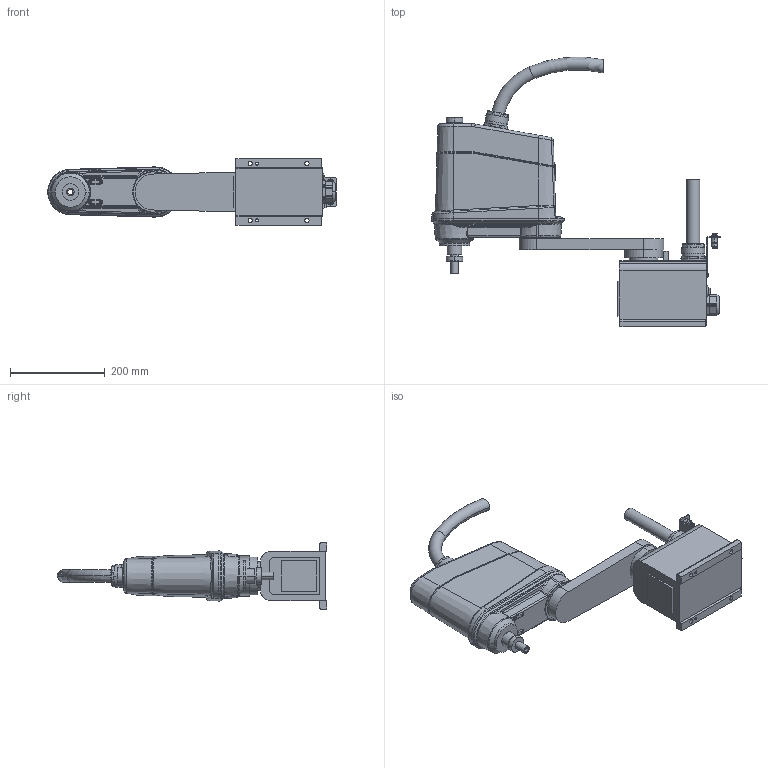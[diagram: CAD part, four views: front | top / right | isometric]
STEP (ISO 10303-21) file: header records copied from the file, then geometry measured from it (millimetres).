
FILE_DESCRIPTION((''),'2;1');
FILE_NAME('THL400_3D_ASM','2024-06-11T15:04:28',('15575'),(''),'CREO PARAMETRIC BY PTC INC, 2020454','CREO PARAMETRIC BY PTC INC, 2020454','');
FILE_SCHEMA(('AUTOMOTIVE_DESIGN { 1 0 10303 214 1 1 1 1 }'));
Length unit declared in the file: millimetre
Products named in the file (5): THL34_BASE; THL400_1ST_ARM; THL400_BALL_SCREW; THL400_2ND_ARM2; THL400_3D_ASM
Assembly tree (4 placements, depth 2):
  THL400_3D_ASM
    THL34_BASE
    THL400_1ST_ARM
    THL400_BALL_SCREW
    THL400_2ND_ARM2
Bounding box: 610 x 569.88 x 140 mm (x, y, z)
Volume: 3116969.1 mm3; surface area: 783942.6 mm2
Topology: 4 solids, 8 shells, 1078 faces, 2565 edges, 1627 vertices
Faces by surface type: plane 429, cylinder 410, torus 94, bspline 93, cone 40, sphere 12
Entity records: 40483 total; most frequent: CARTESIAN_POINT 10737, DIRECTION 5376, ORIENTED_EDGE 5130, EDGE_CURVE 2565, AXIS2_PLACEMENT_3D 2117, VERTEX_POINT 1627, EDGE_LOOP 1238, VECTOR 1142
